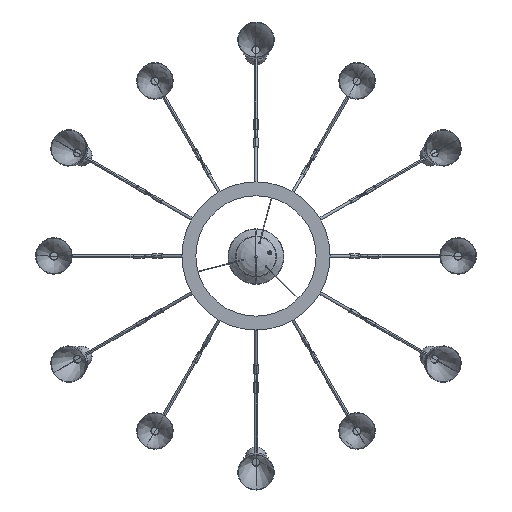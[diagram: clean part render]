
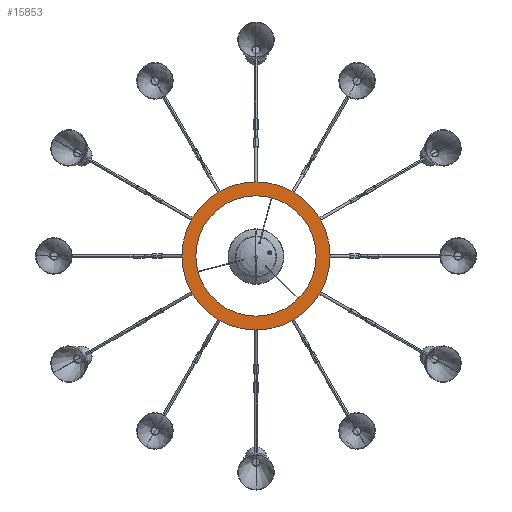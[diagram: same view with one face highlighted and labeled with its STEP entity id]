
A CAD part, top view. The second image highlights one B-rep face of the part: STEP entity #15853.
In plain terms, the highlighted planar face has unit normal (0, 0, 1) as drawn and (0, 0, -1) by its records, which use the part's own axes.
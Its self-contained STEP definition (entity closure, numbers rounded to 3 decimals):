
#395=FACE_BOUND('',#3898,.T.);
#951=PLANE('',#17933);
#2711=FACE_OUTER_BOUND('',#3897,.T.);
#3897=EDGE_LOOP('',(#14299,#14300));
#3898=EDGE_LOOP('',(#14301,#14302));
#4866=CIRCLE('',#17923,195.);
#4868=CIRCLE('',#17926,195.);
#4870=CIRCLE('',#17929,240.);
#4872=CIRCLE('',#17932,240.);
#7740=VERTEX_POINT('',#35989);
#7741=VERTEX_POINT('',#35991);
#7744=VERTEX_POINT('',#36001);
#7745=VERTEX_POINT('',#36003);
#9925=EDGE_CURVE('',#7741,#7740,#4866,.T.);
#9928=EDGE_CURVE('',#7740,#7741,#4868,.T.);
#9931=EDGE_CURVE('',#7745,#7744,#4870,.T.);
#9934=EDGE_CURVE('',#7744,#7745,#4872,.T.);
#14299=ORIENTED_EDGE('',*,*,#9931,.T.);
#14300=ORIENTED_EDGE('',*,*,#9934,.T.);
#14301=ORIENTED_EDGE('',*,*,#9925,.T.);
#14302=ORIENTED_EDGE('',*,*,#9928,.T.);
#15853=ADVANCED_FACE('',(#2711,#395),#951,.T.);
#17923=AXIS2_PLACEMENT_3D('',#35992,#22619,#22620);
#17926=AXIS2_PLACEMENT_3D('',#35996,#22626,#22627);
#17929=AXIS2_PLACEMENT_3D('',#36004,#22633,#22634);
#17932=AXIS2_PLACEMENT_3D('',#36008,#22640,#22641);
#17933=AXIS2_PLACEMENT_3D('',#36009,#22642,#22643);
#22619=DIRECTION('center_axis',(0.,0.,1.));
#22620=DIRECTION('ref_axis',(1.,0.,0.));
#22626=DIRECTION('center_axis',(0.,0.,1.));
#22627=DIRECTION('ref_axis',(1.,0.,0.));
#22633=DIRECTION('center_axis',(0.,0.,-1.));
#22634=DIRECTION('ref_axis',(1.,0.,0.));
#22640=DIRECTION('center_axis',(0.,0.,-1.));
#22641=DIRECTION('ref_axis',(1.,0.,0.));
#22642=DIRECTION('center_axis',(0.,0.,-1.));
#22643=DIRECTION('ref_axis',(0.,-1.,0.));
#35989=CARTESIAN_POINT('',(195.,0.,0.));
#35991=CARTESIAN_POINT('',(-195.,0.,0.));
#35992=CARTESIAN_POINT('Origin',(0.,0.,0.));
#35996=CARTESIAN_POINT('Origin',(0.,0.,0.));
#36001=CARTESIAN_POINT('',(240.,0.,0.));
#36003=CARTESIAN_POINT('',(-240.,0.,0.));
#36004=CARTESIAN_POINT('Origin',(0.,0.,0.));
#36008=CARTESIAN_POINT('Origin',(0.,0.,0.));
#36009=CARTESIAN_POINT('Origin',(240.,0.,0.));
